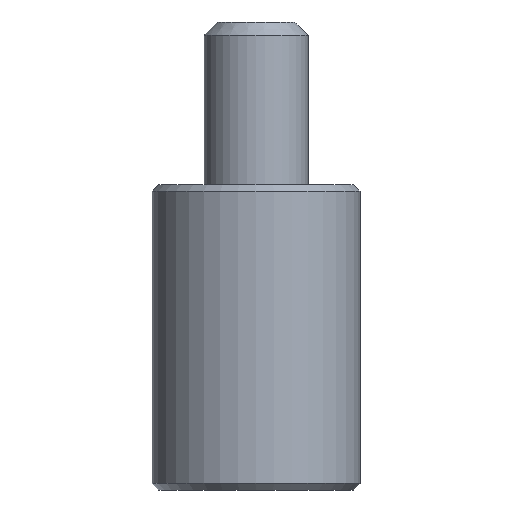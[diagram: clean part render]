
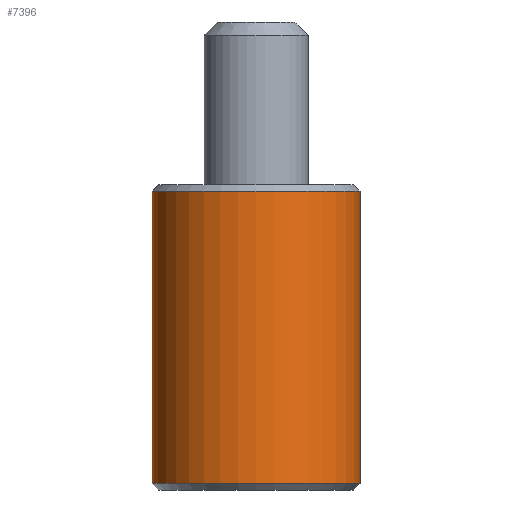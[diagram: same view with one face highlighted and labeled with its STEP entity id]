
A CAD part, front view. The second image highlights one B-rep face of the part: STEP entity #7396.
In plain terms, the highlighted cylindrical face has radius 8 mm (diameter 16 mm), a partial arc.
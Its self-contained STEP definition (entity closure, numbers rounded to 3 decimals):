
#772 = ORIENTED_EDGE ( 'NONE', *, *, #2518, .F. ) ;
#785 = AXIS2_PLACEMENT_3D ( 'NONE', #1642, #5859, #2218 ) ;
#1213 = CARTESIAN_POINT ( 'NONE',  ( -8., 0., 23. ) ) ;
#1251 = ORIENTED_EDGE ( 'NONE', *, *, #2180, .T. ) ;
#1257 = ORIENTED_EDGE ( 'NONE', *, *, #5067, .T. ) ;
#1596 = AXIS2_PLACEMENT_3D ( 'NONE', #7095, #3549, #2947 ) ;
#1642 = CARTESIAN_POINT ( 'NONE',  ( 0., 0., 0.5 ) ) ;
#1837 = VECTOR ( 'NONE', #6244, 1000. ) ;
#1919 = VECTOR ( 'NONE', #6342, 1000. ) ;
#1977 = CYLINDRICAL_SURFACE ( 'NONE', #1596, 8. ) ;
#2013 = LINE ( 'NONE', #6256, #1837 ) ;
#2167 = AXIS2_PLACEMENT_3D ( 'NONE', #6536, #6521, #6516 ) ;
#2180 = EDGE_CURVE ( 'NONE', #6088, #6210, #2373, .T. ) ;
#2192 = LINE ( 'NONE', #6352, #1919 ) ;
#2218 = DIRECTION ( 'NONE',  ( 1., 0., 0. ) ) ;
#2373 = CIRCLE ( 'NONE', #2167, 8. ) ;
#2473 = EDGE_CURVE ( 'NONE', #6210, #6692, #2192, .T. ) ;
#2518 = EDGE_CURVE ( 'NONE', #6088, #4751, #2013, .T. ) ;
#2897 = ORIENTED_EDGE ( 'NONE', *, *, #2473, .T. ) ;
#2947 = DIRECTION ( 'NONE',  ( -1., 0., 0. ) ) ;
#3404 = EDGE_LOOP ( 'NONE', ( #1251, #2897, #1257, #772 ) ) ;
#3549 = DIRECTION ( 'NONE',  ( 0., 0., -1. ) ) ;
#3826 = FACE_OUTER_BOUND ( 'NONE', #3404, .T. ) ;
#4194 = CARTESIAN_POINT ( 'NONE',  ( 8., 0., 23. ) ) ;
#4751 = VERTEX_POINT ( 'NONE', #5878 ) ;
#5067 = EDGE_CURVE ( 'NONE', #6692, #4751, #6586, .T. ) ;
#5859 = DIRECTION ( 'NONE',  ( 0., 0., 1. ) ) ;
#5878 = CARTESIAN_POINT ( 'NONE',  ( -8., 0., 0.5 ) ) ;
#6088 = VERTEX_POINT ( 'NONE', #1213 ) ;
#6210 = VERTEX_POINT ( 'NONE', #4194 ) ;
#6244 = DIRECTION ( 'NONE',  ( 0., 0., -1. ) ) ;
#6256 = CARTESIAN_POINT ( 'NONE',  ( -8., 0., 36. ) ) ;
#6342 = DIRECTION ( 'NONE',  ( 0., 0., -1. ) ) ;
#6352 = CARTESIAN_POINT ( 'NONE',  ( 8., 0., 36. ) ) ;
#6516 = DIRECTION ( 'NONE',  ( 1., 0., 0. ) ) ;
#6521 = DIRECTION ( 'NONE',  ( 0., 0., -1. ) ) ;
#6536 = CARTESIAN_POINT ( 'NONE',  ( 0., 0., 23. ) ) ;
#6586 = CIRCLE ( 'NONE', #785, 8. ) ;
#6655 = CARTESIAN_POINT ( 'NONE',  ( 8., 0., 0.5 ) ) ;
#6692 = VERTEX_POINT ( 'NONE', #6655 ) ;
#7095 = CARTESIAN_POINT ( 'NONE',  ( 0., 0., 36. ) ) ;
#7396 = ADVANCED_FACE ( 'NONE', ( #3826 ), #1977, .T. ) ;
